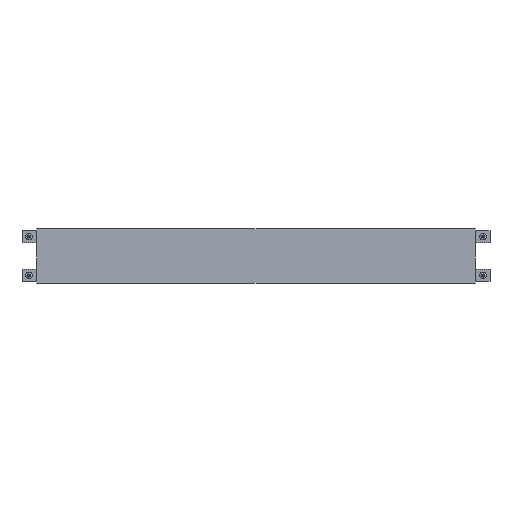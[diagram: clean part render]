
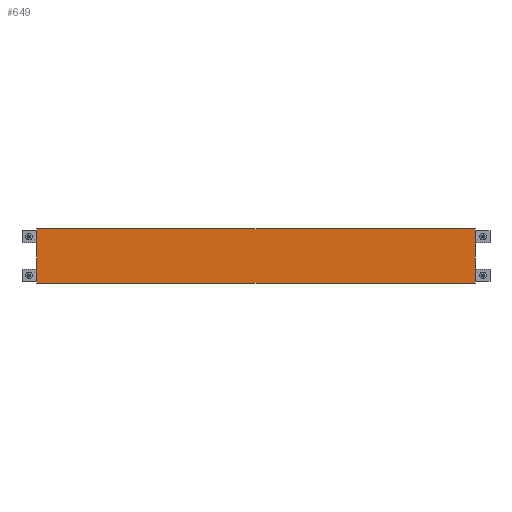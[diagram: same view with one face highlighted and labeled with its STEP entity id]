
A CAD part, top view. The second image highlights one B-rep face of the part: STEP entity #649.
In plain terms, the highlighted planar face has unit normal (0, 0, 1).
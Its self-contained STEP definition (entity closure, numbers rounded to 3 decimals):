
#328 = VERTEX_POINT('',#329);
#329 = CARTESIAN_POINT('',(316.5,-39.,0.));
#335 = EDGE_CURVE('',#328,#336,#338,.T.);
#336 = VERTEX_POINT('',#337);
#337 = CARTESIAN_POINT('',(-316.5,-39.,-0.));
#338 = LINE('',#339,#340);
#339 = CARTESIAN_POINT('',(0.,-39.,-0.));
#340 = VECTOR('',#341,1.);
#341 = DIRECTION('',(-1.,-0.,-0.));
#516 = VERTEX_POINT('',#517);
#517 = CARTESIAN_POINT('',(-316.5,39.,0.));
#523 = EDGE_CURVE('',#516,#524,#526,.T.);
#524 = VERTEX_POINT('',#525);
#525 = CARTESIAN_POINT('',(316.5,39.,0.));
#526 = LINE('',#527,#528);
#527 = CARTESIAN_POINT('',(0.,39.,0.));
#528 = VECTOR('',#529,1.);
#529 = DIRECTION('',(1.,-0.,-0.));
#649 = ADVANCED_FACE('',(#650),#698,.F.);
#650 = FACE_BOUND('',#651,.T.);
#651 = EDGE_LOOP('',(#652,#662,#668,#669,#677,#685,#691,#692));
#652 = ORIENTED_EDGE('',*,*,#653,.T.);
#653 = EDGE_CURVE('',#654,#656,#658,.T.);
#654 = VERTEX_POINT('',#655);
#655 = CARTESIAN_POINT('',(-316.5,36.4,0.));
#656 = VERTEX_POINT('',#657);
#657 = CARTESIAN_POINT('',(-316.5,-36.4,0.));
#658 = LINE('',#659,#660);
#659 = CARTESIAN_POINT('',(-316.5,-39.,0.));
#660 = VECTOR('',#661,1.);
#661 = DIRECTION('',(-0.,-1.,-0.));
#662 = ORIENTED_EDGE('',*,*,#663,.T.);
#663 = EDGE_CURVE('',#656,#336,#664,.T.);
#664 = LINE('',#665,#666);
#665 = CARTESIAN_POINT('',(-316.5,-36.4,0.));
#666 = VECTOR('',#667,1.);
#667 = DIRECTION('',(-0.,-1.,-0.));
#668 = ORIENTED_EDGE('',*,*,#335,.F.);
#669 = ORIENTED_EDGE('',*,*,#670,.F.);
#670 = EDGE_CURVE('',#671,#328,#673,.T.);
#671 = VERTEX_POINT('',#672);
#672 = CARTESIAN_POINT('',(316.5,-36.4,0.));
#673 = LINE('',#674,#675);
#674 = CARTESIAN_POINT('',(316.5,0.,0.));
#675 = VECTOR('',#676,1.);
#676 = DIRECTION('',(-0.,-1.,0.));
#677 = ORIENTED_EDGE('',*,*,#678,.T.);
#678 = EDGE_CURVE('',#671,#679,#681,.T.);
#679 = VERTEX_POINT('',#680);
#680 = CARTESIAN_POINT('',(316.5,36.4,0.));
#681 = LINE('',#682,#683);
#682 = CARTESIAN_POINT('',(316.5,-39.,0.));
#683 = VECTOR('',#684,1.);
#684 = DIRECTION('',(0.,1.,0.));
#685 = ORIENTED_EDGE('',*,*,#686,.T.);
#686 = EDGE_CURVE('',#679,#524,#687,.T.);
#687 = LINE('',#688,#689);
#688 = CARTESIAN_POINT('',(316.5,36.4,0.));
#689 = VECTOR('',#690,1.);
#690 = DIRECTION('',(-0.,1.,-0.));
#691 = ORIENTED_EDGE('',*,*,#523,.F.);
#692 = ORIENTED_EDGE('',*,*,#693,.F.);
#693 = EDGE_CURVE('',#654,#516,#694,.T.);
#694 = LINE('',#695,#696);
#695 = CARTESIAN_POINT('',(-316.5,0.,0.));
#696 = VECTOR('',#697,1.);
#697 = DIRECTION('',(0.,1.,0.));
#698 = PLANE('',#699);
#699 = AXIS2_PLACEMENT_3D('',#700,#701,#702);
#700 = CARTESIAN_POINT('',(0.,0.,0.));
#701 = DIRECTION('',(0.,0.,-1.));
#702 = DIRECTION('',(-1.,0.,-0.));
